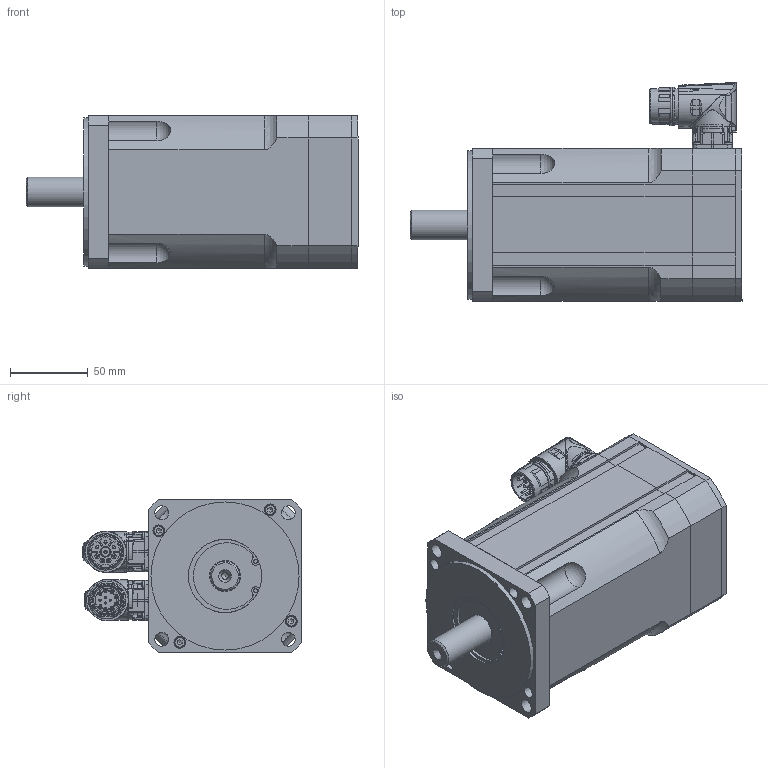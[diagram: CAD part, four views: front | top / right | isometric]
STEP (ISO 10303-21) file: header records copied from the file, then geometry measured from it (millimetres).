
FILE_DESCRIPTION(/* description */ (''),/* implementation_level */ '2;1');
FILE_NAME(/* name */ 'MR6346-Ux-Nxx-G01-A0D-M0-P0.stp',/* time_stamp */ '2017-06-19T14:45:36+02:00',/* author */ (''),/* organization */ (''),/* preprocessor_version */ 'ST-DEVELOPER v16.13',/* originating_system */ 'Autodesk Inventor 2018',/* authorisation */ '');
FILE_SCHEMA (('AUTOMOTIVE_DESIGN { 1 0 10303 214 3 1 1 }'));
Products named in the file (11): MR6346_G01_A0D_M0; MR6346_G01_A0D_M0_front; MR6346_G01_A0D_M0_P0; BED_0201_8-polig, Stift; Basis 2; Basis 11; AED_0201_12-polig, Stift; 124888; 127323; 127331; 127344
Assembly tree (10 placements, depth 3):
  MR6346_G01_A0D_M0
    MR6346_G01_A0D_M0_front
    MR6346_G01_A0D_M0_P0
    BED_0201_8-polig, Stift
      Basis 2
      Basis 11
    AED_0201_12-polig, Stift
      124888
      127323
    127331
    127344
Bounding box: 213 x 140.38 x 98.04 mm (x, y, z)
Volume: 701869.5 mm3; surface area: 196320.6 mm2
Topology: 8 solids, 8 shells, 2714 faces, 6732 edges, 4174 vertices
Faces by surface type: cylinder 1104, plane 758, bspline 415, cone 190, torus 182, sphere 65
Full cylindrical faces by diameter (mm): 1 x32, 1.18 x24, 1.2 x12, 1.3 x8, 2 x8, 2.013 x2, 2.15 x4, 2.208 x8, 2.4 x8, 2.459 x4, 2.5 x10, 2.7 x12, 3 x9, 3.1 x4, 3.2 x1, 3.242 x4, 3.95 x4, 4 x4, 4.134 x1, 4.3 x4, 4.5 x2, 5 x8, 5.5 x2, 5.8 x2, 5.9 x2, 6.8 x2, 7 x4, 7.5 x4, 8 x4, 8.5 x4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
Entity records: 99312 total; most frequent: CARTESIAN_POINT 35554, DIRECTION 12732, ORIENTED_EDGE 12362, EDGE_CURVE 6107, AXIS2_PLACEMENT_3D 5361, VERTEX_POINT 3987, EDGE_LOOP 3336, STYLED_ITEM 2711
